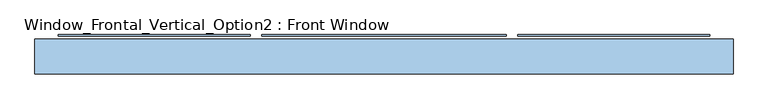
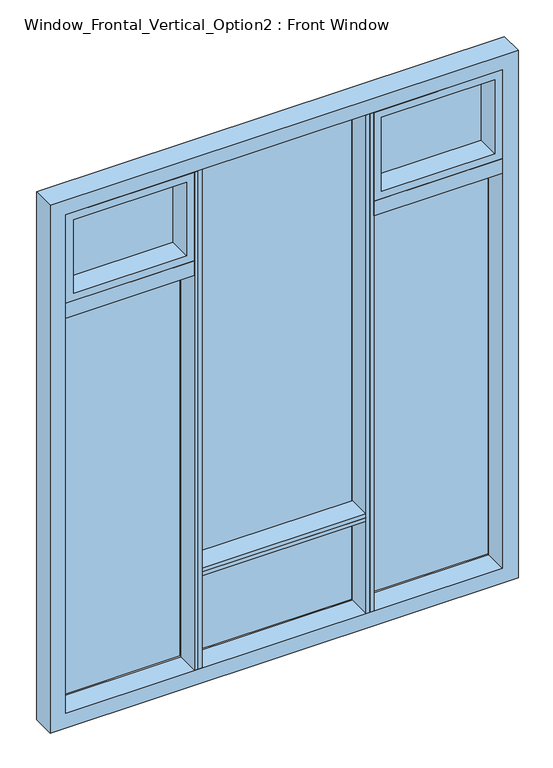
"""IFC4 building model written with IfcOpenShell, lengths in millimetres: window geometry, Window_Frontal_Vertical_Option2 : Front Window."""

from ifc_helpers import new_model, si_unit, frame, origin, place, context, project, spatial, polyline, outline, extrude, source, transform, mapped, element, save


def window_frontal_vertical_option2_front_window_b7f4d29d(model_context):
    return source(origin(), model_context, "Body", "SweptSolid", [
        extrude(outline(polyline([(4546.6, 1524.0), (4546.6, -1524.0), (914.4, -1524.0), (914.4, 1524.0), (4546.6, 1524.0)]), holes=[polyline([(1016.0, 1422.4), (1016.0, -1422.4), (4445.0, -1422.4), (4445.0, 1422.4), (1016.0, 1422.4)])]), frame((0.0, -76.2, 0.0), z_axis=(0.0, 1.0, 0.0), x_axis=(0.0, 0.0, 1.0)), (0.0, 0.0, 1.0), 152.4),
        extrude(outline(polyline([(-584.2, 95.25), (-584.2, 88.9), (-1422.4, 88.9), (-1422.4, 95.25), (-584.2, 95.25)])), frame((0.0, 0.0, 1016.0), z_axis=(0.0, 0.0, 1.0), x_axis=(1.0, 0.0, 0.0)), (0.0, 0.0, 1.0), 3429.0),
        extrude(outline(polyline([(533.4, 95.25), (533.4, 88.9), (-533.4, 88.9), (-533.4, 95.25), (533.4, 95.25)])), frame((0.0, 0.0, 1016.0), z_axis=(0.0, 0.0, 1.0), x_axis=(1.0, 0.0, 0.0)), (0.0, 0.0, 1.0), 3429.0),
        extrude(outline(polyline([(1422.4, 95.25), (1422.4, 88.9), (584.2, 88.9), (584.2, 95.25), (1422.4, 95.25)])), frame((0.0, 0.0, 1016.0), z_axis=(0.0, 0.0, 1.0), x_axis=(1.0, 0.0, 0.0)), (0.0, 0.0, 1.0), 3429.0),
        extrude(outline(polyline([(558.8, -76.2), (533.4, -76.2), (533.4, 76.2), (558.8, 76.2), (558.8, -76.2)])), frame((0.0, 0.0, 1016.0), z_axis=(0.0, 0.0, 1.0), x_axis=(1.0, 0.0, 0.0)), (0.0, 0.0, 1.0), 3429.0),
        extrude(outline(polyline([(-533.4, -76.2), (-558.8, -76.2), (-558.8, 76.2), (-533.4, 76.2), (-533.4, -76.2)])), frame((0.0, 0.0, 1016.0), z_axis=(0.0, 0.0, 1.0), x_axis=(1.0, 0.0, 0.0)), (0.0, 0.0, 1.0), 3429.0),
        extrude(outline(polyline([(584.2, -76.2), (558.8, -76.2), (558.8, 76.2), (584.2, 76.2), (584.2, -76.2)])), frame((0.0, 0.0, 1016.0), z_axis=(0.0, 0.0, 1.0), x_axis=(1.0, 0.0, 0.0)), (0.0, 0.0, 1.0), 3429.0),
        extrude(outline(polyline([(-558.8, -76.2), (-584.2, -76.2), (-584.2, 76.2), (-558.8, 76.2), (-558.8, -76.2)])), frame((0.0, 0.0, 1016.0), z_axis=(0.0, 0.0, 1.0), x_axis=(1.0, 0.0, 0.0)), (0.0, 0.0, 1.0), 3429.0),
        extrude(outline(polyline([(533.4, -76.2), (-533.4, -76.2), (-533.4, 76.2), (533.4, 76.2), (533.4, -76.2)])), frame((0.0, 0.0, 1676.4), z_axis=(0.0, 0.0, 1.0), x_axis=(1.0, 0.0, 0.0)), (0.0, 0.0, 1.0), 25.4),
        extrude(outline(polyline([(-584.2, -76.2), (-1422.4, -76.2), (-1422.4, 76.2), (-584.2, 76.2), (-584.2, -76.2)])), frame((0.0, 0.0, 3733.8), z_axis=(0.0, 0.0, 1.0), x_axis=(1.0, 0.0, 0.0)), (0.0, 0.0, 1.0), 101.6),
        extrude(outline(polyline([(1422.4, -76.2), (584.2, -76.2), (584.2, 76.2), (1422.4, 76.2), (1422.4, -76.2)])), frame((0.0, 0.0, 3733.8), z_axis=(0.0, 0.0, 1.0), x_axis=(1.0, 0.0, 0.0)), (0.0, 0.0, 1.0), 101.6),
        extrude(outline(polyline([(533.4, -76.2), (-533.4, -76.2), (-533.4, 76.2), (533.4, 76.2), (533.4, -76.2)])), frame((0.0, 0.0, 1651.0), z_axis=(0.0, 0.0, 1.0), x_axis=(1.0, 0.0, 0.0)), (0.0, 0.0, 1.0), 25.4),
        extrude(outline(polyline([(4445.0, -1422.4), (3835.4, -1422.4), (3835.4, -584.2), (4445.0, -584.2), (4445.0, -1422.4)]), holes=[polyline([(3886.2, -635.0), (3886.2, -1371.6), (4394.2, -1371.6), (4394.2, -635.0), (3886.2, -635.0)])]), frame((0.0, -76.2, 0.0), z_axis=(0.0, 1.0, 0.0), x_axis=(0.0, 0.0, 1.0)), (0.0, 0.0, 1.0), 152.4),
        extrude(outline(polyline([(4445.0, 584.2), (3835.4, 584.2), (3835.4, 1422.4), (4445.0, 1422.4), (4445.0, 584.2)]), holes=[polyline([(3886.2, 1371.6), (3886.2, 635.0), (4394.2, 635.0), (4394.2, 1371.6), (3886.2, 1371.6)])]), frame((0.0, -76.2, 0.0), z_axis=(0.0, 1.0, 0.0), x_axis=(0.0, 0.0, 1.0)), (0.0, 0.0, 1.0), 152.4),
    ])


if __name__ == "__main__":
    model = new_model("IFC4")
    model_context = context("Model", 3, world=origin())
    ifc_project = project(units=[si_unit("LENGTHUNIT", "METRE", prefix="MILLI")], contexts=[model_context])
    site = spatial("IfcSite", under=ifc_project)
    building = spatial("IfcBuilding", under=site)
    placement = place(None, origin())
    window_frontal_vertical_option2_front_window_shape = window_frontal_vertical_option2_front_window_b7f4d29d(model_context)
    element("IfcWindow", 1, ObjectType="Window_Frontal_Vertical_Option2 : Front Window", at=placement, inside=building, context=model_context, shape_type="MappedRepresentation", body=[
        mapped(window_frontal_vertical_option2_front_window_shape, transform((0.0, 0.0, 0.0), x_axis=(1.0, 0.0, 0.0), y_axis=(0.0, 1.0, 0.0), z_axis=(0.0, 0.0, 1.0))),
    ])
    save(model, "model.ifc")
